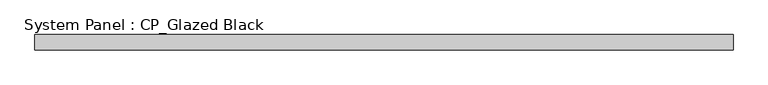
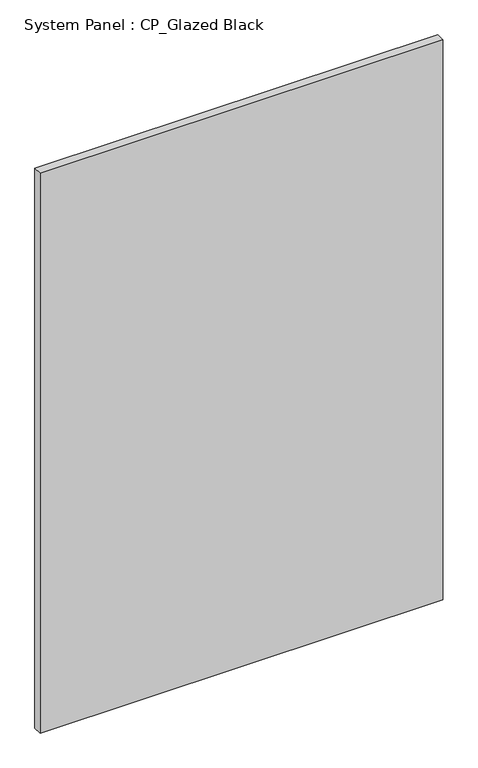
"""IFC4 building model written with IfcOpenShell, lengths in millimetres: plate geometry, System Panel : CP_Glazed Black."""

from ifc_helpers import new_model, si_unit, origin, origin_with_axes, place, context, project, spatial, polyline, outline, extrude, source, transform, mapped, element, save


def system_panel_cp_glazed_black_f567fce5(model_context):
    return source(origin(), model_context, "Body", "SweptSolid", [
        extrude(outline(polyline([(579.4524455, 19.05), (-579.4524455, 19.05), (-579.4524455, 44.45), (579.4524455, 44.45), (579.4524455, 19.05)])), origin_with_axes(), (0.0, 0.0, 1.0), 1701.8),
    ])


if __name__ == "__main__":
    model = new_model("IFC4")
    model_context = context("Model", 3, world=origin())
    ifc_project = project(units=[si_unit("LENGTHUNIT", "METRE", prefix="MILLI")], contexts=[model_context])
    site = spatial("IfcSite", under=ifc_project)
    building = spatial("IfcBuilding", under=site)
    placement = place(None, origin())
    system_panel_cp_glazed_black_shape = system_panel_cp_glazed_black_f567fce5(model_context)
    element("IfcPlate", 1, ObjectType="System Panel : CP_Glazed Black", at=placement, inside=building, context=model_context, shape_type="MappedRepresentation", body=[
        mapped(system_panel_cp_glazed_black_shape, transform((0.0, 0.0, 0.0), x_axis=(1.0, 0.0, 0.0), y_axis=(0.0, 1.0, 0.0), z_axis=(0.0, 0.0, 1.0))),
    ])
    save(model, "model.ifc")
